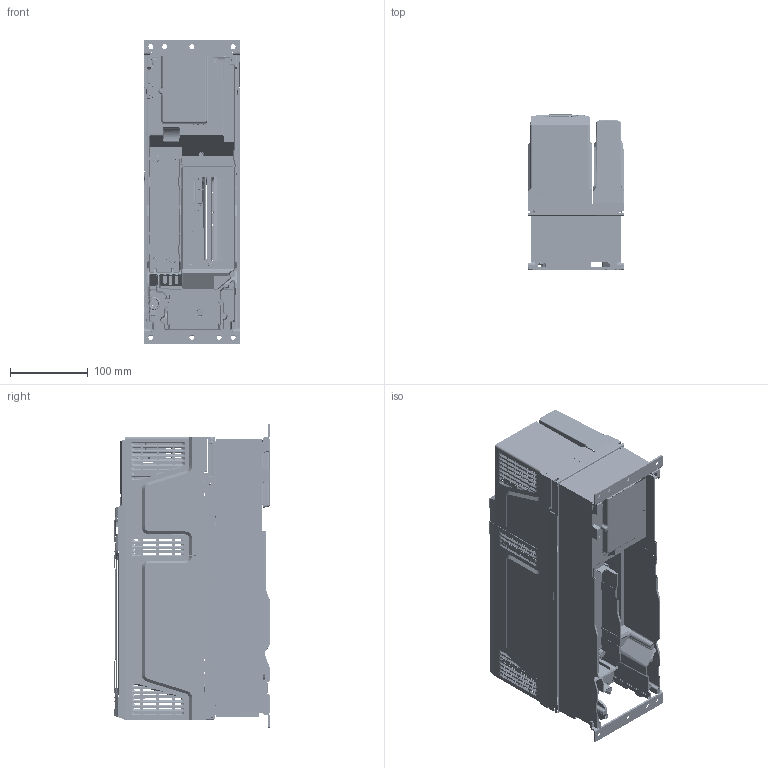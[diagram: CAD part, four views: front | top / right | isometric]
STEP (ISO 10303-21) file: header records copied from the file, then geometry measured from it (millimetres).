
FILE_DESCRIPTION((''),'2;1');
FILE_NAME('EXTERNAL_GT8-F05','2013-09-02T',('lewisi02'),(''),'PRO/ENGINEER BY PARAMETRIC TECHNOLOGY CORPORATION, 2011490','PRO/ENGINEER BY PARAMETRIC TECHNOLOGY CORPORATION, 2011490','');
FILE_SCHEMA(('CONFIG_CONTROL_DESIGN'));
Products named in the file (1): EXTERNAL_GT8-F05
Bounding box: 123.78 x 200.1 x 391 mm (x, y, z)
Surface area: 777847.3 mm2 (no closed solid volume)
Topology: 0 solids, 820 shells, 3327 faces, 28916 edges, 25929 vertices
Faces by surface type: plane 1881, cylinder 682, bspline 271, cone 224, extrusion 142, torus 118, sphere 9
Entity records: 301565 total; most frequent: CARTESIAN_POINT 116151, ORIENTED_EDGE 32933, DIRECTION 29462, EDGE_CURVE 28914, VERTEX_POINT 25929, VECTOR 18858, LINE 18716, B_SPLINE_CURVE_WITH_KNOTS 7952
